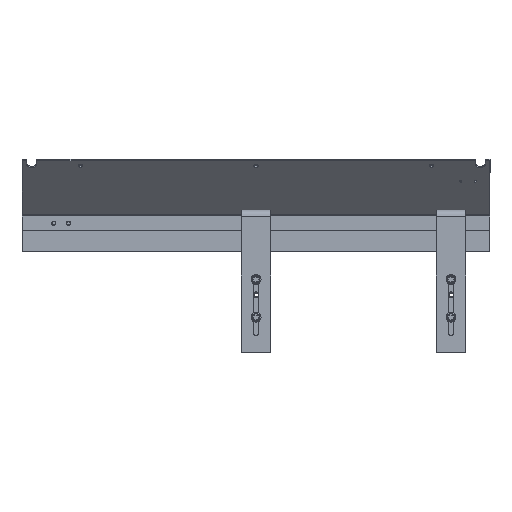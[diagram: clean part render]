
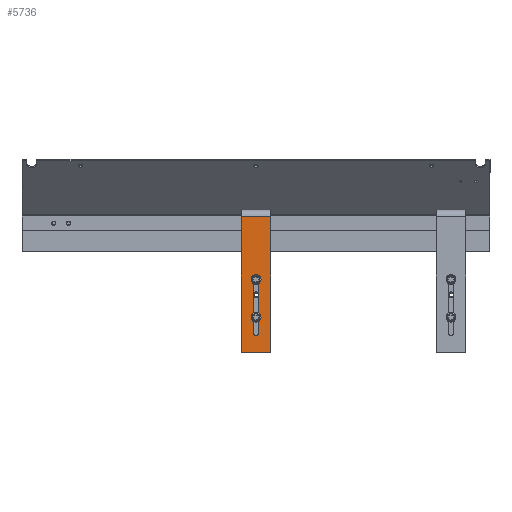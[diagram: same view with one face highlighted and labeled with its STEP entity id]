
A CAD part, top view. The second image highlights one B-rep face of the part: STEP entity #5736.
In plain terms, the highlighted planar face has unit normal (0, 0, 1).
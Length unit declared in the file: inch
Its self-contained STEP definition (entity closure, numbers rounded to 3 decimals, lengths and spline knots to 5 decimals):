
#968 = VERTEX_POINT ( 'NONE', #13705 ) ;
#1212 = AXIS2_PLACEMENT_3D ( 'NONE', #8231, #12752, #12846 ) ;
#1484 = PLANE ( 'NONE',  #1212 ) ;
#1882 = VERTEX_POINT ( 'NONE', #10557 ) ;
#1925 = VECTOR ( 'NONE', #15173, 39.37008 ) ;
#1955 = VECTOR ( 'NONE', #14381, 39.37008 ) ;
#3496 = DIRECTION ( 'NONE',  ( 1., 0., 0. ) ) ;
#3550 = EDGE_CURVE ( 'NONE', #23670, #19875, #14590, .T. ) ;
#3825 = EDGE_CURVE ( 'NONE', #19875, #1882, #13857, .T. ) ;
#4845 = CARTESIAN_POINT ( 'NONE',  ( 11.91302, -0.5105, 4.547 ) ) ;
#5051 = LINE ( 'NONE', #10997, #15970 ) ;
#5620 = CARTESIAN_POINT ( 'NONE',  ( 11.78802, -3.2525, 4.547 ) ) ;
#5736 = ADVANCED_FACE ( 'NONE', ( #16529, #17941 ), #1484, .T. ) ;
#6829 = DIRECTION ( 'NONE',  ( 1., 0., 0. ) ) ;
#7341 = ORIENTED_EDGE ( 'NONE', *, *, #14256, .T. ) ;
#7565 = CARTESIAN_POINT ( 'NONE',  ( 11.66302, -0.5105, 4.547 ) ) ;
#8231 = CARTESIAN_POINT ( 'NONE',  ( 11.03802, 2.7095, 4.547 ) ) ;
#10522 = VERTEX_POINT ( 'NONE', #7565 ) ;
#10557 = CARTESIAN_POINT ( 'NONE',  ( 11.03802, 2.7095, 4.547 ) ) ;
#10613 = ORIENTED_EDGE ( 'NONE', *, *, #27557, .T. ) ;
#10876 = ORIENTED_EDGE ( 'NONE', *, *, #3550, .T. ) ;
#10997 = CARTESIAN_POINT ( 'NONE',  ( 11.03802, -4.2525, 4.547 ) ) ;
#11115 = ORIENTED_EDGE ( 'NONE', *, *, #3825, .T. ) ;
#12681 = EDGE_CURVE ( 'NONE', #1882, #27219, #26580, .T. ) ;
#12742 = ORIENTED_EDGE ( 'NONE', *, *, #12681, .T. ) ;
#12752 = DIRECTION ( 'NONE',  ( 0., 0., 1. ) ) ;
#12846 = DIRECTION ( 'NONE',  ( 1., 0., 0. ) ) ;
#12928 = ORIENTED_EDGE ( 'NONE', *, *, #20229, .T. ) ;
#13587 = CARTESIAN_POINT ( 'NONE',  ( 11.66302, -3.2525, 4.547 ) ) ;
#13705 = CARTESIAN_POINT ( 'NONE',  ( 11.91302, -3.2525, 4.547 ) ) ;
#13857 = LINE ( 'NONE', #19856, #1925 ) ;
#14256 = EDGE_CURVE ( 'NONE', #27219, #23670, #5051, .T. ) ;
#14316 = AXIS2_PLACEMENT_3D ( 'NONE', #5620, #17122, #3496 ) ;
#14381 = DIRECTION ( 'NONE',  ( 0., 1., 0. ) ) ;
#14590 = LINE ( 'NONE', #23175, #1955 ) ;
#14853 = DIRECTION ( 'NONE',  ( 0., -1., 0. ) ) ;
#15173 = DIRECTION ( 'NONE',  ( -1., 0., 0. ) ) ;
#15584 = CARTESIAN_POINT ( 'NONE',  ( 11.91302, 2.7095, 4.547 ) ) ;
#15625 = CARTESIAN_POINT ( 'NONE',  ( 11.78802, -0.5105, 4.547 ) ) ;
#15673 = DIRECTION ( 'NONE',  ( 0., -1., 0. ) ) ;
#15778 = ORIENTED_EDGE ( 'NONE', *, *, #24533, .T. ) ;
#15970 = VECTOR ( 'NONE', #6829, 39.37008 ) ;
#16104 = LINE ( 'NONE', #23143, #16427 ) ;
#16179 = VERTEX_POINT ( 'NONE', #13587 ) ;
#16427 = VECTOR ( 'NONE', #27387, 39.37008 ) ;
#16529 = FACE_BOUND ( 'NONE', #26319, .T. ) ;
#16744 = VECTOR ( 'NONE', #14853, 39.37008 ) ;
#17122 = DIRECTION ( 'NONE',  ( 0., 0., -1. ) ) ;
#17178 = CARTESIAN_POINT ( 'NONE',  ( 11.03802, 2.7095, 4.547 ) ) ;
#17560 = EDGE_CURVE ( 'NONE', #968, #16179, #25698, .T. ) ;
#17941 = FACE_OUTER_BOUND ( 'NONE', #22826, .T. ) ;
#18636 = ORIENTED_EDGE ( 'NONE', *, *, #17560, .T. ) ;
#19030 = CIRCLE ( 'NONE', #26130, 0.125 ) ;
#19856 = CARTESIAN_POINT ( 'NONE',  ( 11.03802, 2.7095, 4.547 ) ) ;
#19875 = VERTEX_POINT ( 'NONE', #25165 ) ;
#20229 = EDGE_CURVE ( 'NONE', #22151, #968, #23048, .T. ) ;
#22021 = VECTOR ( 'NONE', #15673, 39.37008 ) ;
#22138 = CARTESIAN_POINT ( 'NONE',  ( 12.53802, -4.2525, 4.547 ) ) ;
#22151 = VERTEX_POINT ( 'NONE', #4845 ) ;
#22550 = DIRECTION ( 'NONE',  ( 1., 0., 0. ) ) ;
#22826 = EDGE_LOOP ( 'NONE', ( #11115, #12742, #7341, #10876 ) ) ;
#23048 = LINE ( 'NONE', #15584, #22021 ) ;
#23143 = CARTESIAN_POINT ( 'NONE',  ( 11.66302, 2.7095, 4.547 ) ) ;
#23175 = CARTESIAN_POINT ( 'NONE',  ( 12.53802, 2.7095, 4.547 ) ) ;
#23670 = VERTEX_POINT ( 'NONE', #22138 ) ;
#24533 = EDGE_CURVE ( 'NONE', #10522, #22151, #19030, .T. ) ;
#24697 = DIRECTION ( 'NONE',  ( 0., 0., -1. ) ) ;
#25165 = CARTESIAN_POINT ( 'NONE',  ( 12.53802, 2.7095, 4.547 ) ) ;
#25698 = CIRCLE ( 'NONE', #14316, 0.125 ) ;
#26130 = AXIS2_PLACEMENT_3D ( 'NONE', #15625, #24697, #22550 ) ;
#26319 = EDGE_LOOP ( 'NONE', ( #10613, #15778, #12928, #18636 ) ) ;
#26580 = LINE ( 'NONE', #17178, #16744 ) ;
#27219 = VERTEX_POINT ( 'NONE', #28842 ) ;
#27387 = DIRECTION ( 'NONE',  ( 0., 1., 0. ) ) ;
#27557 = EDGE_CURVE ( 'NONE', #16179, #10522, #16104, .T. ) ;
#28842 = CARTESIAN_POINT ( 'NONE',  ( 11.03802, -4.2525, 4.547 ) ) ;
